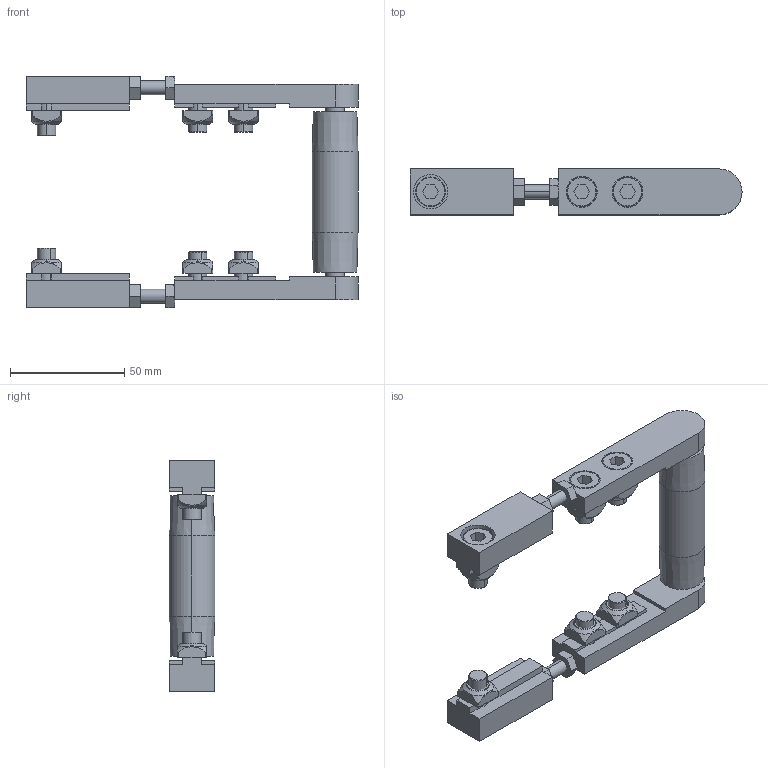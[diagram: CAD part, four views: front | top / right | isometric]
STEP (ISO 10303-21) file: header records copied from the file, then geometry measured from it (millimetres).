
FILE_DESCRIPTION (( 'STEP AP214' ), '1' );
FILE_NAME ('084.020.KI.050.STEP', '2021-02-05T13:50:01', ( '' ), ( '' ), 'SwSTEP 2.0', 'SolidWorks 2018', '' );
FILE_SCHEMA (( 'AUTOMOTIVE_DESIGN' ));
Length unit declared in the file: millimetre
Products named in the file (11): 084.800.027; 084.301.000 VITI ALUSIC_084.301.002; 084.302.000 DADI ALUSIC 13x13-1_084.302.004; Circlip DIN 471 - 8 x 0.8_Circlip DIN 471 - 8 x 0.8; 084.800.007; 084.020.KI.050; 084.800.002; 084.301.000 VITI ALUSIC_084.301.003; 084.800.008; 084.802.008; 084.800.012
Assembly tree (27 placements, depth 2):
  084.020.KI.050
    084.802.008  x2
    084.301.000 VITI ALUSIC_084.301.003  x2
    084.302.000 DADI ALUSIC 13x13-1_084.302.004  x6
    084.800.027
    084.800.012  x4
    084.800.008  x2
    084.800.002  x2
    084.800.007  x2
    084.301.000 VITI ALUSIC_084.301.002  x4
    Circlip DIN 471 - 8 x 0.8_Circlip DIN 471 - 8 x 0.8  x2
Bounding box: 145 x 20 x 101 mm (x, y, z)
Volume: 75468 mm3; surface area: 49632.9 mm2
Topology: 31 solids, 31 shells, 664 faces, 1564 edges, 998 vertices
Faces by surface type: plane 262, cylinder 210, torus 112, cone 56, bspline 24
Entity records: 7968 total; most frequent: CARTESIAN_POINT 1641, DIRECTION 1296, ORIENTED_EDGE 1124, EDGE_CURVE 562, AXIS2_PLACEMENT_3D 506, VERTEX_POINT 361, LINE 284, VECTOR 284
